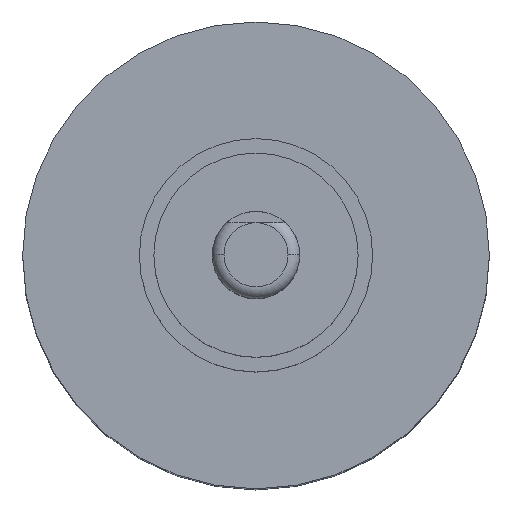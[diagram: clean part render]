
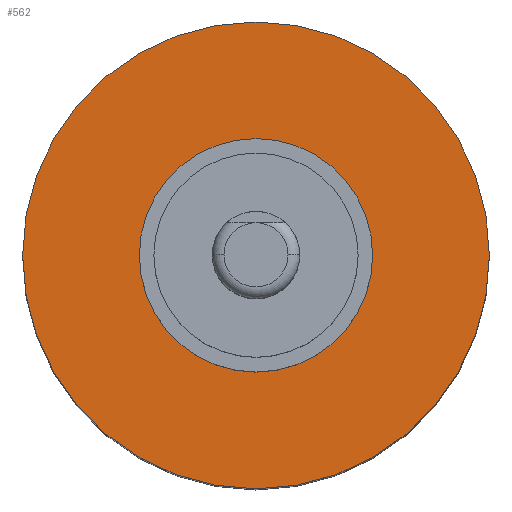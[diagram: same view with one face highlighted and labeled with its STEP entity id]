
A CAD part, top view. The second image highlights one B-rep face of the part: STEP entity #562.
In plain terms, the highlighted planar face has unit normal (0, 0, 1).
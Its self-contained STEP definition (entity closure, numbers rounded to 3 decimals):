
#182 = PLANE ( 'NONE',  #244 ) ;
#189 = ORIENTED_EDGE ( 'NONE', *, *, #637, .T. ) ;
#244 = AXIS2_PLACEMENT_3D ( 'NONE', #497, #351, #504 ) ;
#256 = DIRECTION ( 'NONE',  ( 0., -1., 0. ) ) ;
#268 = CARTESIAN_POINT ( 'NONE',  ( 0., 0., -6. ) ) ;
#313 = AXIS2_PLACEMENT_3D ( 'NONE', #268, #720, #256 ) ;
#351 = DIRECTION ( 'NONE',  ( 0., 0., 1. ) ) ;
#411 = CARTESIAN_POINT ( 'NONE',  ( 0., -4., -6. ) ) ;
#497 = CARTESIAN_POINT ( 'NONE',  ( 0., 0., -6. ) ) ;
#504 = DIRECTION ( 'NONE',  ( 0., -1., 0. ) ) ;
#541 = CIRCLE ( 'NONE', #650, 4. ) ;
#562 = ADVANCED_FACE ( 'NONE', ( #647 ), #182, .T. ) ;
#631 = EDGE_CURVE ( 'NONE', #762, #984, #541, .T. ) ;
#637 = EDGE_CURVE ( 'NONE', #984, #762, #746, .T. ) ;
#642 = DIRECTION ( 'NONE',  ( 0., 0., 1. ) ) ;
#647 = FACE_OUTER_BOUND ( 'NONE', #744, .T. ) ;
#650 = AXIS2_PLACEMENT_3D ( 'NONE', #887, #642, #938 ) ;
#720 = DIRECTION ( 'NONE',  ( 0., 0., 1. ) ) ;
#744 = EDGE_LOOP ( 'NONE', ( #189, #868 ) ) ;
#746 = CIRCLE ( 'NONE', #313, 4. ) ;
#762 = VERTEX_POINT ( 'NONE', #903 ) ;
#868 = ORIENTED_EDGE ( 'NONE', *, *, #631, .T. ) ;
#887 = CARTESIAN_POINT ( 'NONE',  ( 0., 0., -6. ) ) ;
#903 = CARTESIAN_POINT ( 'NONE',  ( 0., 4., -6. ) ) ;
#938 = DIRECTION ( 'NONE',  ( 0., -1., 0. ) ) ;
#984 = VERTEX_POINT ( 'NONE', #411 ) ;
